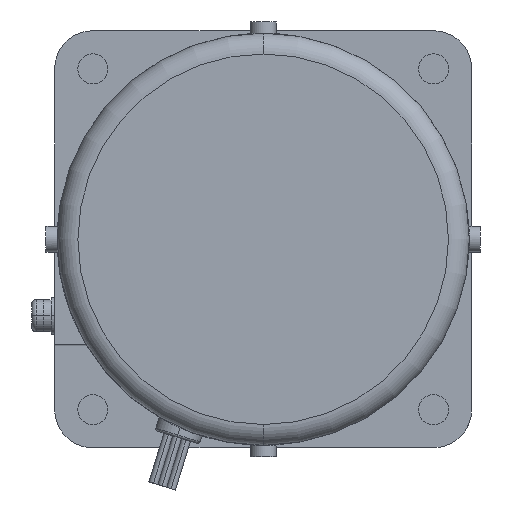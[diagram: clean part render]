
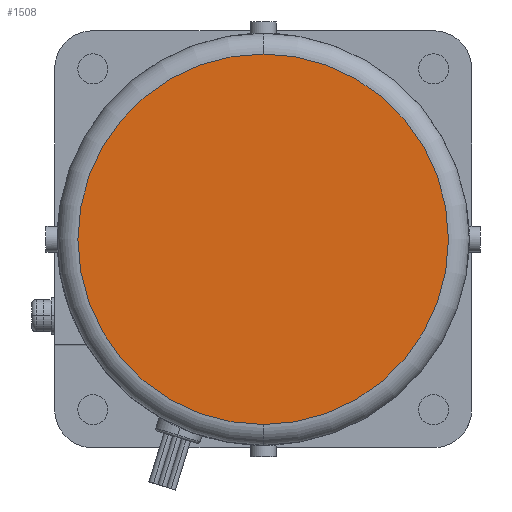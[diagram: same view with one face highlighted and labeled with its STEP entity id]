
A CAD part, left-side view. The second image highlights one B-rep face of the part: STEP entity #1508.
In plain terms, the highlighted planar face has unit normal (-1, 0, 0).
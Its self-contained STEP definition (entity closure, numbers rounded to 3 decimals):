
#1488=CARTESIAN_POINT('POINT763878',(-208.,0.,
   22.));
#1489=VERTEX_POINT('VERTEX763878',#1488);
#1490=CARTESIAN_POINT('POINT763879',(-208.,0.,
   -58.));
#1491=VERTEX_POINT('VERTEX763879',#1490);
#1492=CARTESIAN_POINT('POS1258770',(-208.,0.,-18.));
#1493=DIRECTION('DIR1895285',(-1.,0.,0.));
#1494=DIRECTION('DIR1895286',(0.,0.,-1.));
#1495=AXIS2_PLACEMENT_3D('AXIS636516',#1492,#1493,#1494);
#1496=CIRCLE('ELLIPSE291114',#1495,40.);
#1497=EDGE_CURVE('EDGE1171514',#1489,#1491,#1496,.T.);
#1498=ORIENTED_EDGE('COEDGE2343739',*,*,#1497,.T.);
#1499=EDGE_CURVE('EDGE1171515',#1491,#1489,#1496,.T.);
#1500=ORIENTED_EDGE('COEDGE2343740',*,*,#1499,.T.);
#1501=EDGE_LOOP('NONE',(#1498,#1500));
#1502=FACE_BOUND('LOOP1',#1501,.T.);
#1503=CARTESIAN_POINT('POS1258771',(-208.,0.,-40.245));
#1504=DIRECTION('DIR1895287',(-1.,0.,0.));
#1505=DIRECTION('DIR1895288',(0.,1.,0.));
#1506=AXIS2_PLACEMENT_3D('AXIS636517',#1503,#1504,#1505);
#1507=PLANE('PLANE213478',#1506);
#1508=ADVANCED_FACE('FACE480882',(#1502),#1507,.T.);
